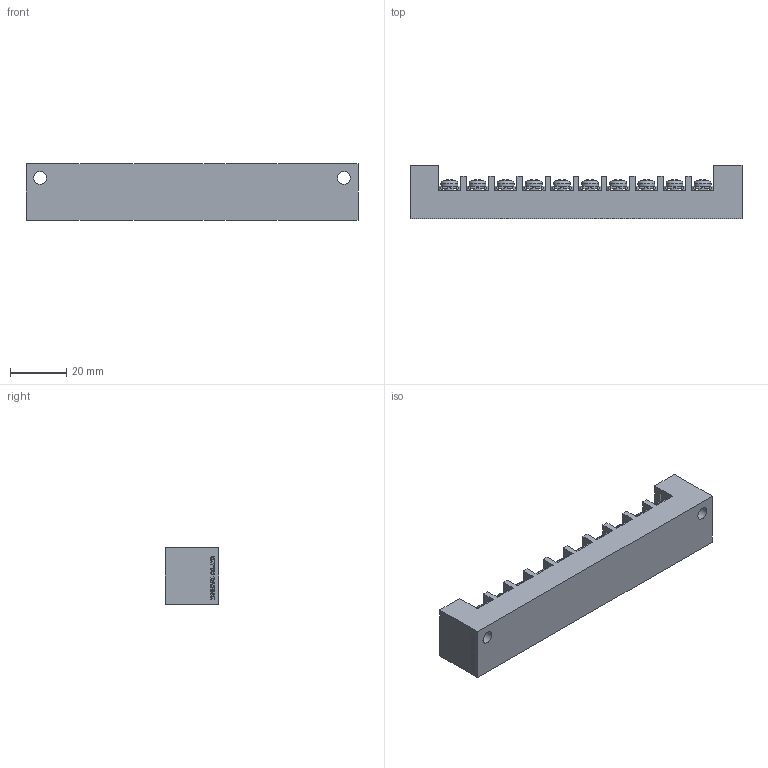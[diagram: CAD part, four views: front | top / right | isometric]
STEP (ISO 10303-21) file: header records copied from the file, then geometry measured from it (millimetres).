
FILE_DESCRIPTION(/* description */ ('Alibre Inc.'),/* implementation_level */ '2;1');
FILE_NAME(/* name */ 'export0',/* time_stamp */ '2016-02-13T17:56:20+09:00',/* author */ (''),/* organization */ (''),/* preprocessor_version */ 'ST-DEVELOPER v14',/* originating_system */ 'Alibre',/* authorisation */ '');
FILE_SCHEMA (('CONFIG_CONTROL_DESIGN'));
Length unit declared in the file: centimetre
Products named in the file (1): ID_1
Bounding box: 118 x 19 x 20 mm (x, y, z)
Volume: 30087.7 mm3; surface area: 15403.4 mm2
Topology: 1 solids, 21 shells, 2055 faces, 5571 edges, 3514 vertices
Faces by surface type: plane 1379, bspline 372, cone 100, extrusion 80, cylinder 64, sphere 40, torus 20
Full cylindrical faces by diameter (mm): 3.5 x40, 4.5 x2, 6 x20, 7 x2
Entity records: 73823 total; most frequent: CARTESIAN_POINT 27872, ORIENTED_EDGE 10854, DIRECTION 6667, EDGE_CURVE 5427, VECTOR 3676, LINE 3636, VERTEX_POINT 3474, EDGE_LOOP 2299
